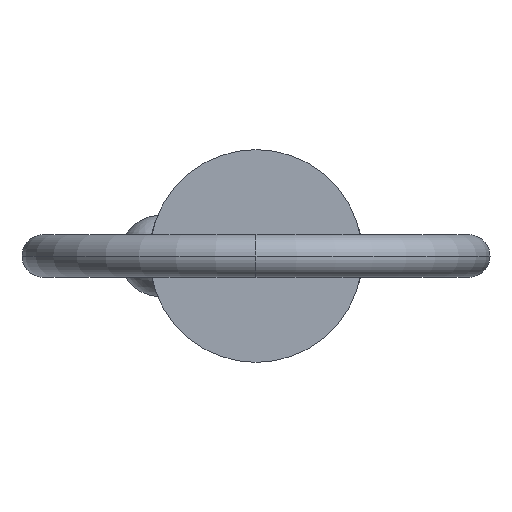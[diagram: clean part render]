
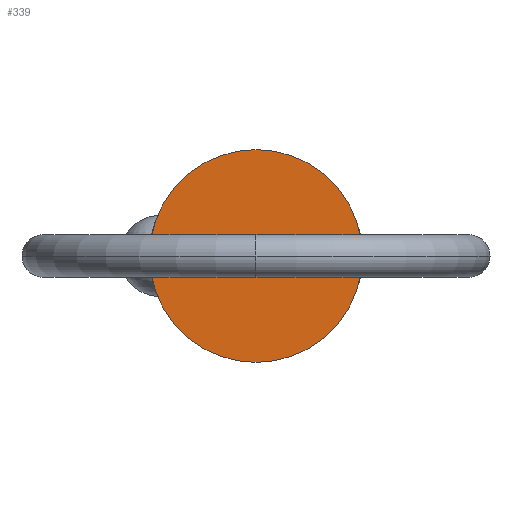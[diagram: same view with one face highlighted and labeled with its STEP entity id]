
A CAD part, left-side view. The second image highlights one B-rep face of the part: STEP entity #339.
In plain terms, the highlighted planar face has unit normal (-1, 0, 0).
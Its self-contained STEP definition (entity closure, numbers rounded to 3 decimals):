
#77 = CARTESIAN_POINT ( 'NONE',  ( 0., 0., 0. ) ) ;
#131 = DIRECTION ( 'NONE',  ( 1., 0., 0. ) ) ;
#137 = VERTEX_POINT ( 'NONE', #688 ) ;
#171 = PLANE ( 'NONE',  #789 ) ;
#185 = CARTESIAN_POINT ( 'NONE',  ( 0., 0., -9.525 ) ) ;
#187 = AXIS2_PLACEMENT_3D ( 'NONE', #308, #131, #282 ) ;
#240 = FACE_OUTER_BOUND ( 'NONE', #447, .T. ) ;
#282 = DIRECTION ( 'NONE',  ( 0., 0., -1. ) ) ;
#288 = DIRECTION ( 'NONE',  ( 0., 0., -1. ) ) ;
#308 = CARTESIAN_POINT ( 'NONE',  ( 0., 0., 0. ) ) ;
#339 = ADVANCED_FACE ( 'NONE', ( #240 ), #171, .T. ) ;
#357 = DIRECTION ( 'NONE',  ( 1., 0., 0. ) ) ;
#447 = EDGE_LOOP ( 'NONE', ( #867, #639 ) ) ;
#448 = CARTESIAN_POINT ( 'NONE',  ( 0., 0., 0. ) ) ;
#515 = DIRECTION ( 'NONE',  ( 0., 0., 1. ) ) ;
#586 = CIRCLE ( 'NONE', #744, 9.525 ) ;
#636 = EDGE_CURVE ( 'NONE', #137, #878, #832, .T. ) ;
#639 = ORIENTED_EDGE ( 'NONE', *, *, #636, .F. ) ;
#688 = CARTESIAN_POINT ( 'NONE',  ( 0., 0., 9.525 ) ) ;
#718 = DIRECTION ( 'NONE',  ( -1., 0., 0. ) ) ;
#744 = AXIS2_PLACEMENT_3D ( 'NONE', #77, #357, #288 ) ;
#789 = AXIS2_PLACEMENT_3D ( 'NONE', #448, #718, #515 ) ;
#793 = EDGE_CURVE ( 'NONE', #878, #137, #586, .T. ) ;
#832 = CIRCLE ( 'NONE', #187, 9.525 ) ;
#867 = ORIENTED_EDGE ( 'NONE', *, *, #793, .F. ) ;
#878 = VERTEX_POINT ( 'NONE', #185 ) ;
